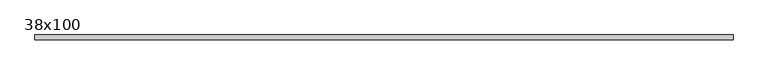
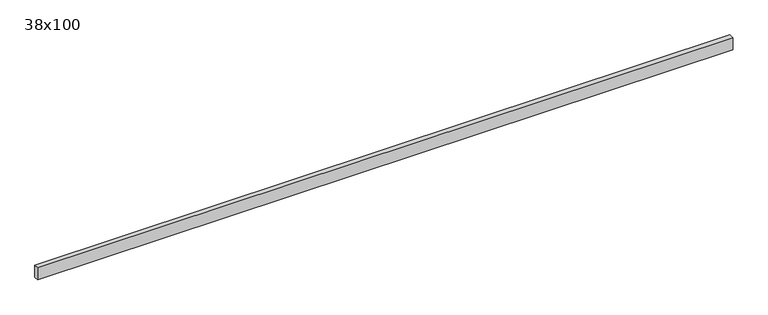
"""IFC4 building model written with IfcOpenShell, lengths in millimetres: beam geometry, Poutre - Bois de construction de dimensions courantes : 38x100."""

import ifcopenshell
import ifcopenshell.guid

model = None  # the IFC model being written
_history = None  # IfcOwnerHistory: only IFC2X3 demands one
_inside = {}  # id of a spatial element -> (the spatial element, [elements in it])
_under = {}  # id of a project, library or spatial element -> (it, [spatial elements below it])
_declared = {}  # id of a project -> (the project, [libraries it declares])
_typed = {}  # id of a type object -> (the type object, [elements of that type])
_made_of = {}  # id of a material, layer set ... -> (it, [elements and type objects made of it])


def new_model(schema):
    """Start an empty IFC model of exactly this schema.

    Asked for "IFC4X3", IfcOpenShell would pick the latest addendum, in which some entities
    have other attributes; the version numbers below select the first issue.
    IFC2X3 requires an IfcOwnerHistory on every rooted entity: one is made here for all.
    """
    global model, _history
    if schema == "IFC4X3":
        model = ifcopenshell.file(schema_version=(4, 3, 0, 0))
    else:
        model = ifcopenshell.file(schema=schema)
    _inside.clear()
    _under.clear()
    _declared.clear()
    _typed.clear()
    _made_of.clear()
    _history = None
    if model.schema == "IFC2X3":
        org = make("IfcOrganization", Name="unknown")
        user = make(
            "IfcPersonAndOrganization",
            ThePerson=make("IfcPerson", FamilyName="unknown"),
            TheOrganization=org,
        )
        app = make(
            "IfcApplication",
            ApplicationDeveloper=org,
            Version="unknown",
            ApplicationFullName="unknown",
            ApplicationIdentifier="unknown",
        )
        _history = make(
            "IfcOwnerHistory",
            OwningUser=user,
            OwningApplication=app,
            ChangeAction="ADDED",
            CreationDate=0,
        )
    return model


def make(cls, **values):
    """One entity of the class cls with the attributes given. An attribute that is None is left unset."""
    return model.create_entity(
        cls, **{name: value for name, value in values.items() if value is not None}
    )


def rooted(cls, **values):
    """An entity with a GlobalId (a new one), such as an element, a storey or a relation."""
    return make(cls, GlobalId=ifcopenshell.guid.new(), OwnerHistory=_history, **values)


def si_unit(unit_type, name, prefix=None):
    """IfcSIUnit, for example si_unit("LENGTHUNIT", "METRE", prefix="MILLI")."""
    return make("IfcSIUnit", UnitType=unit_type, Prefix=prefix, Name=name)


def assignment(units):
    """IfcUnitAssignment: the units of a project."""
    return None if units is None else make("IfcUnitAssignment", Units=units)


def point(xyz):
    """IfcCartesianPoint."""
    return None if xyz is None else make("IfcCartesianPoint", Coordinates=xyz)


def direction(xyz):
    """IfcDirection."""
    return None if xyz is None else make("IfcDirection", DirectionRatios=xyz)


def frame(location, z_axis=None, x_axis=None):
    """IfcAxis2Placement3D, a coordinate frame: its origin and axes. An axis left out is left unset."""
    return make(
        "IfcAxis2Placement3D",
        Location=point(location),
        Axis=direction(z_axis),
        RefDirection=direction(x_axis),
    )


def origin():
    """The frame at (0, 0, 0) with its axes left unset."""
    return frame((0.0, 0.0, 0.0))


def place(relative_to, where):
    """IfcLocalPlacement: puts the frame where relative to a parent placement (None: the world)."""
    return make(
        "IfcLocalPlacement", PlacementRelTo=relative_to, RelativePlacement=where
    )


def context(
    kind, dimensions, precision=None, world=None, true_north=None, identifier=None
):
    """IfcGeometricRepresentationContext, for example the 3D "Model" context."""
    return make(
        "IfcGeometricRepresentationContext",
        ContextIdentifier=identifier,
        ContextType=kind,
        CoordinateSpaceDimension=dimensions,
        Precision=precision,
        WorldCoordinateSystem=world,
        TrueNorth=true_north,
    )


def project(units=None, contexts=None):
    """IfcProject with its units and contexts."""
    return rooted(
        "IfcProject",
        Name="project",
        RepresentationContexts=contexts,
        UnitsInContext=assignment(units),
    )


def spatial(cls, under=None, at=None, **own):
    """A site, building, storey or space (cls), placed at a placement, below another one or the project."""
    s = rooted(cls, ObjectPlacement=at, **own)
    if under is not None:
        _under.setdefault(under.id(), (under, []))[1].append(s)
    return s


def polyline(points):
    """IfcPolyline through the points."""
    return make("IfcPolyline", Points=[point(p) for p in points])


def outline(outer, holes=None, kind="AREA"):
    """IfcArbitraryClosedProfileDef: a profile drawn as a closed curve; with holes, ...WithVoids."""
    if holes is None:
        return make("IfcArbitraryClosedProfileDef", ProfileType=kind, OuterCurve=outer)
    return make(
        "IfcArbitraryProfileDefWithVoids",
        ProfileType=kind,
        OuterCurve=outer,
        InnerCurves=holes,
    )


def extrude(swept, where, along, depth):
    """IfcExtrudedAreaSolid: the profile swept, set in the frame where, extruded along a direction by depth."""
    return make(
        "IfcExtrudedAreaSolid",
        SweptArea=swept,
        Position=where,
        ExtrudedDirection=direction(along),
        Depth=depth,
    )


def shape(context_of_items, identifier, shape_type, items):
    """IfcShapeRepresentation: the items that make up one representation, for example the "Body"."""
    return make(
        "IfcShapeRepresentation",
        ContextOfItems=context_of_items,
        RepresentationIdentifier=identifier,
        RepresentationType=shape_type,
        Items=items,
    )


def source(mapping_origin, context_of_items, identifier, shape_type, items):
    """IfcRepresentationMap: a shape defined once, which mapped items show again and again."""
    return make(
        "IfcRepresentationMap",
        MappingOrigin=mapping_origin,
        MappedRepresentation=shape(context_of_items, identifier, shape_type, items),
    )


def transform(
    local_origin,
    x_axis=None,
    y_axis=None,
    z_axis=None,
    scale=None,
    scale2=None,
    scale3=None,
    uniform=True,
):
    """IfcCartesianTransformationOperator3D, or its non-uniform kind. x_axis, y_axis, z_axis: its Axis1, 2, 3."""
    if uniform:
        return make(
            "IfcCartesianTransformationOperator3D",
            Axis1=direction(x_axis),
            Axis2=direction(y_axis),
            LocalOrigin=point(local_origin),
            Scale=scale,
            Axis3=direction(z_axis),
        )
    return make(
        "IfcCartesianTransformationOperator3DnonUniform",
        Axis1=direction(x_axis),
        Axis2=direction(y_axis),
        LocalOrigin=point(local_origin),
        Scale=scale,
        Axis3=direction(z_axis),
        Scale2=scale2,
        Scale3=scale3,
    )


def mapped(mapping_source, mapping_target):
    """IfcMappedItem: shows the shape of a source again, moved by a transform."""
    return make(
        "IfcMappedItem", MappingSource=mapping_source, MappingTarget=mapping_target
    )


def made_of(thing, what):
    """Note that an element or type object is made of a material, layer set ...; save() writes the relation."""
    if what is not None:
        _made_of.setdefault(what.id(), (what, []))[1].append(thing)
    return thing


def element(
    cls,
    number,
    at=None,
    inside=None,
    cuts=None,
    type_object=None,
    material=None,
    context=None,
    identifier="Body",
    shape_type=None,
    held_by="IfcProductDefinitionShape",
    body=None,
    shapes=None,
    **own,
):
    """One element of the class cls, such as IfcWall. Its Tag is "e" and its number.

    at: its placement. inside: the storey or other place that contains it. cuts: it is an
    opening in that element (IfcRelVoidsElement). A single representation is given by context,
    identifier, shape_type and body (its items); several are given by shapes. held_by: the class
    of the entity that holds the representations. save() writes the other relations.
    """
    e = rooted(cls, Tag="e%d" % number, ObjectPlacement=at, **own)
    if body is not None:
        shapes = [shape(context, identifier, shape_type, body)]
    if shapes is not None:
        e.Representation = make(held_by, Representations=shapes)
    if inside is not None:
        _inside.setdefault(inside.id(), (inside, []))[1].append(e)
    if cuts is not None:
        rooted(
            "IfcRelVoidsElement", RelatingBuildingElement=cuts, RelatedOpeningElement=e
        )
    if type_object is not None:
        _typed.setdefault(type_object.id(), (type_object, []))[1].append(e)
    return made_of(e, material)


def aggregate(whole, parts):
    """IfcRelAggregates: a whole, such as a stair, and the parts it consists of."""
    return rooted("IfcRelAggregates", RelatingObject=whole, RelatedObjects=parts)


def save(model, path):
    """Write the relations noted so far, then the file.

    IfcRelAggregates (storeys below a building ...), IfcRelContainedInSpatialStructure (elements
    in a storey), IfcRelDefinesByType, IfcRelAssociatesMaterial and IfcRelDeclares: one each for
    every whole, place, type object, material and project.
    """
    for whole, parts in _under.values():
        aggregate(whole, parts)
    for where, things in _inside.values():
        rooted(
            "IfcRelContainedInSpatialStructure",
            RelatedElements=things,
            RelatingStructure=where,
        )
    for kind, things in _typed.values():
        rooted("IfcRelDefinesByType", RelatedObjects=things, RelatingType=kind)
    for what, things in _made_of.values():
        rooted("IfcRelAssociatesMaterial", RelatedObjects=things, RelatingMaterial=what)
    for by, libraries in _declared.values():
        rooted("IfcRelDeclares", RelatingContext=by, RelatedDefinitions=libraries)
    model.write(path)


def beam_38x100_5f6e8667(model_context):
    return source(origin(), model_context, "Body", "SweptSolid", [
        extrude(outline(polyline([(2517.1230358, 19.05), (2517.1230358, -19.05), (-3029.0, -19.05), (-3029.0, 19.05), (2517.1230358, 19.05)])), frame((0.0, 0.0, -50.0), z_axis=(0.0, 0.0, 1.0), x_axis=(1.0, 0.0, 0.0)), (0.0, 0.0, 1.0), 100.0),
    ])


if __name__ == "__main__":
    model = new_model("IFC4")
    model_context = context("Model", 3, world=origin())
    ifc_project = project(units=[si_unit("LENGTHUNIT", "METRE", prefix="MILLI")], contexts=[model_context])
    site = spatial("IfcSite", under=ifc_project)
    building = spatial("IfcBuilding", under=site)
    placement = place(None, origin())
    beam_38x100_shape = beam_38x100_5f6e8667(model_context)
    element("IfcBeam", 1, ObjectType="Poutre - Bois de construction de dimensions courantes : 38x100", at=placement, inside=building, context=model_context, shape_type="MappedRepresentation", body=[
        mapped(beam_38x100_shape, transform((0.0, 0.0, 0.0), x_axis=(1.0, 0.0, 0.0), y_axis=(0.0, 1.0, 0.0), z_axis=(0.0, 0.0, 1.0))),
    ])
    save(model, "model.ifc")
